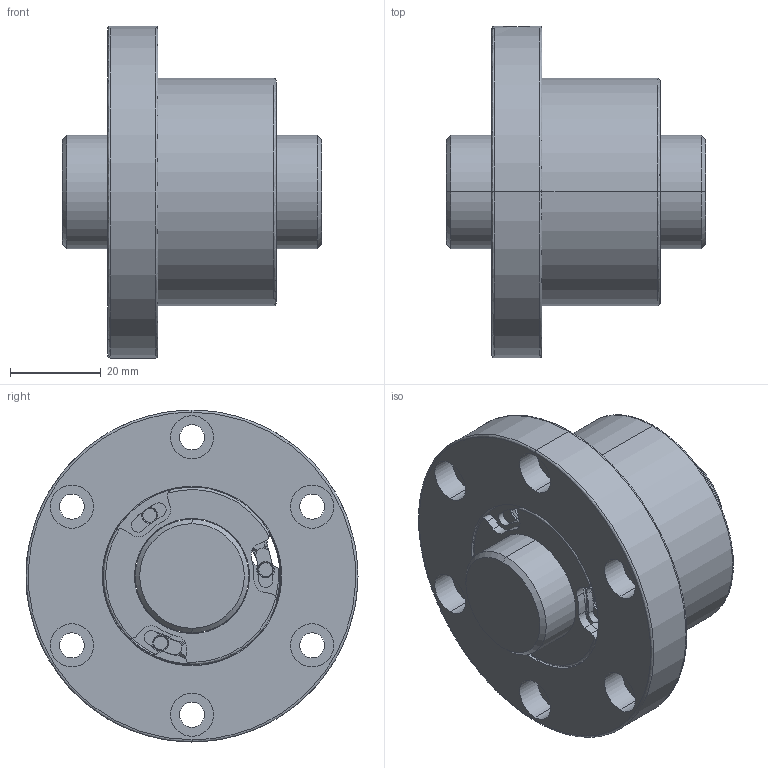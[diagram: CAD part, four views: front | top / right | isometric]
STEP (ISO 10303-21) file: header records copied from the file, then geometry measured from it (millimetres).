
FILE_DESCRIPTION (( 'STEP AP203' ), '1' );
FILE_NAME ('SFVSR02505C1N-C.STEP', '2020-06-17T05:09:05', ( '' ), ( '' ), 'SwSTEP 2.0', 'SolidWorks 2013', '' );
FILE_SCHEMA (( 'CONFIG_CONTROL_DESIGN' ));
Length unit declared in the file: millimetre
Products named in the file (1): SFVSR02505C1N-C
Bounding box: 57 x 73 x 73 mm (x, y, z)
Volume: 99091.1 mm3; surface area: 26686.5 mm2
Topology: 2 solids, 2 shells, 250 faces, 610 edges, 390 vertices
Faces by surface type: cylinder 144, plane 76, cone 16, bspline 14
Entity records: 8070 total; most frequent: CARTESIAN_POINT 1858, DIRECTION 1424, ORIENTED_EDGE 1220, EDGE_CURVE 610, AXIS2_PLACEMENT_3D 609, VERTEX_POINT 390, CIRCLE 372, EDGE_LOOP 294
